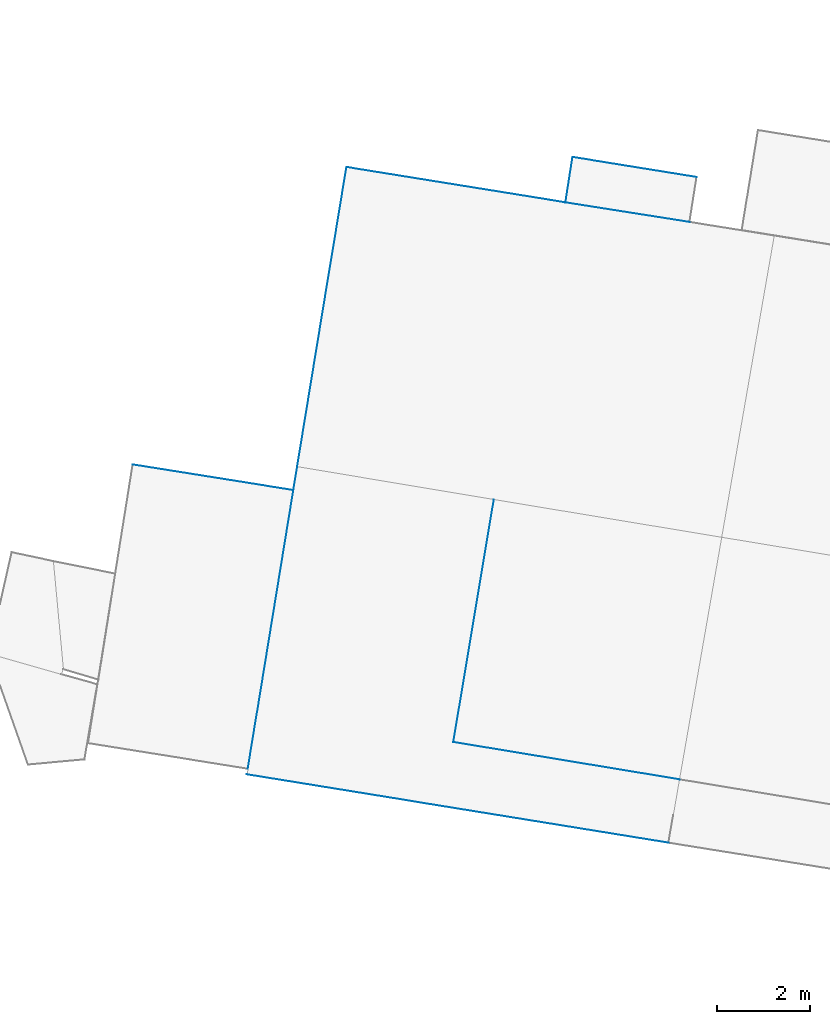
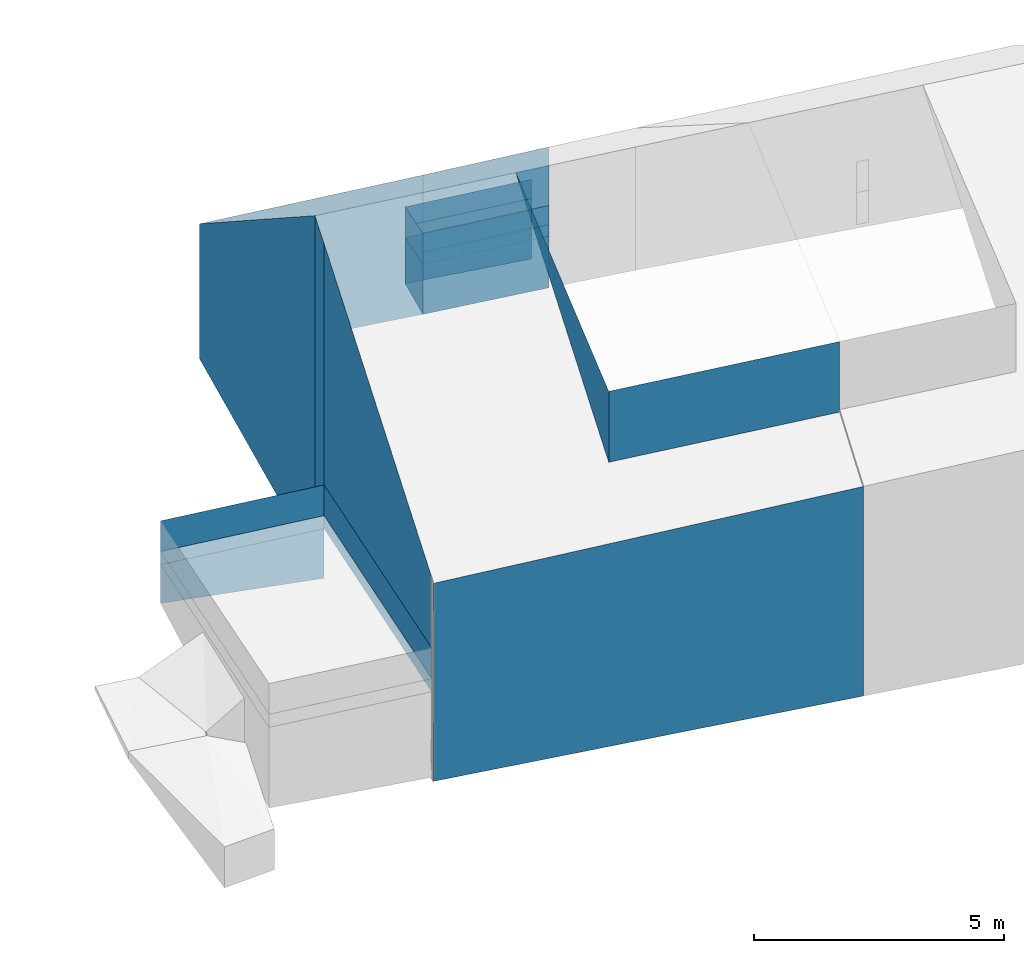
# Not in any storey, part 14 of 57: 26 walls.
"""IFC4 building model written with IfcOpenShell, lengths in metres."""

import ifcopenshell
import ifcopenshell.guid

model = None  # the IFC model being written
_history = None  # IfcOwnerHistory: only IFC2X3 demands one
_inside = {}  # id of a spatial element -> (the spatial element, [elements in it])
_under = {}  # id of a project, library or spatial element -> (it, [spatial elements below it])
_declared = {}  # id of a project -> (the project, [libraries it declares])
_typed = {}  # id of a type object -> (the type object, [elements of that type])
_made_of = {}  # id of a material, layer set ... -> (it, [elements and type objects made of it])


def new_model(schema):
    """Start an empty IFC model of exactly this schema.

    Asked for "IFC4X3", IfcOpenShell would pick the latest addendum, in which some entities
    have other attributes; the version numbers below select the first issue.
    IFC2X3 requires an IfcOwnerHistory on every rooted entity: one is made here for all.
    """
    global model, _history
    if schema == "IFC4X3":
        model = ifcopenshell.file(schema_version=(4, 3, 0, 0))
    else:
        model = ifcopenshell.file(schema=schema)
    _inside.clear()
    _under.clear()
    _declared.clear()
    _typed.clear()
    _made_of.clear()
    _history = None
    if model.schema == "IFC2X3":
        org = make("IfcOrganization", Name="unknown")
        user = make(
            "IfcPersonAndOrganization",
            ThePerson=make("IfcPerson", FamilyName="unknown"),
            TheOrganization=org,
        )
        app = make(
            "IfcApplication",
            ApplicationDeveloper=org,
            Version="unknown",
            ApplicationFullName="unknown",
            ApplicationIdentifier="unknown",
        )
        _history = make(
            "IfcOwnerHistory",
            OwningUser=user,
            OwningApplication=app,
            ChangeAction="ADDED",
            CreationDate=0,
        )
    return model


def make(cls, **values):
    """One entity of the class cls with the attributes given. An attribute that is None is left unset."""
    return model.create_entity(
        cls, **{name: value for name, value in values.items() if value is not None}
    )


def entity(cls, *values):
    """Any entity or typed value of the class cls, its attributes in the order of the schema. None: left unset."""
    e = model.create_entity(cls)
    for i, value in enumerate(values):
        if value is not None:
            e[i] = value
    return e


def rooted(cls, **values):
    """An entity with a GlobalId (a new one), such as an element, a storey or a relation."""
    return make(cls, GlobalId=ifcopenshell.guid.new(), OwnerHistory=_history, **values)


def si_unit(unit_type, name, prefix=None):
    """IfcSIUnit, for example si_unit("LENGTHUNIT", "METRE", prefix="MILLI")."""
    return make("IfcSIUnit", UnitType=unit_type, Prefix=prefix, Name=name)


def converted_unit(unit_type, name, factor, base, dimensions=None, offset=None):
    """IfcConversionBasedUnit, such as the inch: factor (a typed value) times the base unit."""
    return make(
        "IfcConversionBasedUnit"
        if offset is None
        else "IfcConversionBasedUnitWithOffset",
        ConversionOffset=offset,
        Dimensions=None
        if dimensions is None
        else entity("IfcDimensionalExponents", *dimensions),
        UnitType=unit_type,
        Name=name,
        ConversionFactor=make(
            "IfcMeasureWithUnit", ValueComponent=factor, UnitComponent=base
        ),
    )


def assignment(units):
    """IfcUnitAssignment: the units of a project."""
    return None if units is None else make("IfcUnitAssignment", Units=units)


def point(xyz):
    """IfcCartesianPoint."""
    return None if xyz is None else make("IfcCartesianPoint", Coordinates=xyz)


def direction(xyz):
    """IfcDirection."""
    return None if xyz is None else make("IfcDirection", DirectionRatios=xyz)


def frame(location, z_axis=None, x_axis=None):
    """IfcAxis2Placement3D, a coordinate frame: its origin and axes. An axis left out is left unset."""
    return make(
        "IfcAxis2Placement3D",
        Location=point(location),
        Axis=direction(z_axis),
        RefDirection=direction(x_axis),
    )


def origin():
    """The frame at (0, 0, 0) with its axes left unset."""
    return frame((0.0, 0.0, 0.0))


def place(relative_to, where):
    """IfcLocalPlacement: puts the frame where relative to a parent placement (None: the world)."""
    return make(
        "IfcLocalPlacement", PlacementRelTo=relative_to, RelativePlacement=where
    )


def context(
    kind, dimensions, precision=None, world=None, true_north=None, identifier=None
):
    """IfcGeometricRepresentationContext, for example the 3D "Model" context."""
    return make(
        "IfcGeometricRepresentationContext",
        ContextIdentifier=identifier,
        ContextType=kind,
        CoordinateSpaceDimension=dimensions,
        Precision=precision,
        WorldCoordinateSystem=world,
        TrueNorth=true_north,
    )


def subcontext(parent, identifier, kind, view, scale=None):
    """IfcGeometricRepresentationSubContext, for example "Body" below "Model"."""
    return make(
        "IfcGeometricRepresentationSubContext",
        ContextIdentifier=identifier,
        ContextType=kind,
        ParentContext=parent,
        TargetScale=scale,
        TargetView=view,
    )


def project(units=None, contexts=None):
    """IfcProject with its units and contexts."""
    return rooted(
        "IfcProject",
        Name="project",
        RepresentationContexts=contexts,
        UnitsInContext=assignment(units),
    )


def spatial(cls, under=None, at=None, **own):
    """A site, building, storey or space (cls), placed at a placement, below another one or the project."""
    s = rooted(cls, ObjectPlacement=at, **own)
    if under is not None:
        _under.setdefault(under.id(), (under, []))[1].append(s)
    return s


def faces_of(points, faces, orient=None, outer=None):
    """IfcFace entities. A face is a list of loops; a loop is a list of indices into points, from 0.

    orient and outer hold one flag for each loop. By default every Orientation is true, the
    first loop of a face is its IfcFaceOuterBound and the others are IfcFaceBound.
    """
    made = []
    for i, loops in enumerate(faces):
        bounds = []
        for j, loop in enumerate(loops):
            is_outer = j == 0 if outer is None else outer[i][j]
            bounds.append(
                make(
                    "IfcFaceOuterBound" if is_outer else "IfcFaceBound",
                    Bound=make("IfcPolyLoop", Polygon=[points[k] for k in loop]),
                    Orientation=True if orient is None else orient[i][j],
                )
            )
        made.append(make("IfcFace", Bounds=bounds))
    return made


def face_set(faces, orient=None, outer=None):
    """The faces of one IfcConnectedFaceSet. surface_model builds it on its shared points."""
    return ("IfcConnectedFaceSet", faces, orient, outer)


def surface_model(cls, points, shells):
    """IfcFaceBasedSurfaceModel or IfcShellBasedSurfaceModel (cls): surfaces that need not close."""
    shared = [point(p) for p in points]
    made = [make(c, CfsFaces=faces_of(shared, fs, o, b)) for c, fs, o, b in shells]
    if cls == "IfcFaceBasedSurfaceModel":
        return make(cls, FbsmFaces=made)
    return make(cls, SbsmBoundary=made)


def shape(context_of_items, identifier, shape_type, items):
    """IfcShapeRepresentation: the items that make up one representation, for example the "Body"."""
    return make(
        "IfcShapeRepresentation",
        ContextOfItems=context_of_items,
        RepresentationIdentifier=identifier,
        RepresentationType=shape_type,
        Items=items,
    )


def made_of(thing, what):
    """Note that an element or type object is made of a material, layer set ...; save() writes the relation."""
    if what is not None:
        _made_of.setdefault(what.id(), (what, []))[1].append(thing)
    return thing


def element(
    cls,
    number,
    at=None,
    inside=None,
    cuts=None,
    type_object=None,
    material=None,
    context=None,
    identifier="Body",
    shape_type=None,
    held_by="IfcProductDefinitionShape",
    body=None,
    shapes=None,
    **own,
):
    """One element of the class cls, such as IfcWall. Its Tag is "e" and its number.

    at: its placement. inside: the storey or other place that contains it. cuts: it is an
    opening in that element (IfcRelVoidsElement). A single representation is given by context,
    identifier, shape_type and body (its items); several are given by shapes. held_by: the class
    of the entity that holds the representations. save() writes the other relations.
    """
    e = rooted(cls, Tag="e%d" % number, ObjectPlacement=at, **own)
    if body is not None:
        shapes = [shape(context, identifier, shape_type, body)]
    if shapes is not None:
        e.Representation = make(held_by, Representations=shapes)
    if inside is not None:
        _inside.setdefault(inside.id(), (inside, []))[1].append(e)
    if cuts is not None:
        rooted(
            "IfcRelVoidsElement", RelatingBuildingElement=cuts, RelatedOpeningElement=e
        )
    if type_object is not None:
        _typed.setdefault(type_object.id(), (type_object, []))[1].append(e)
    return made_of(e, material)


def aggregate(whole, parts):
    """IfcRelAggregates: a whole, such as a stair, and the parts it consists of."""
    return rooted("IfcRelAggregates", RelatingObject=whole, RelatedObjects=parts)


def save(model, path):
    """Write the relations noted so far, then the file.

    IfcRelAggregates (storeys below a building ...), IfcRelContainedInSpatialStructure (elements
    in a storey), IfcRelDefinesByType, IfcRelAssociatesMaterial and IfcRelDeclares: one each for
    every whole, place, type object, material and project.
    """
    for whole, parts in _under.values():
        aggregate(whole, parts)
    for where, things in _inside.values():
        rooted(
            "IfcRelContainedInSpatialStructure",
            RelatedElements=things,
            RelatingStructure=where,
        )
    for kind, things in _typed.values():
        rooted("IfcRelDefinesByType", RelatedObjects=things, RelatingType=kind)
    for what, things in _made_of.values():
        rooted("IfcRelAssociatesMaterial", RelatedObjects=things, RelatingMaterial=what)
    for by, libraries in _declared.values():
        rooted("IfcRelDeclares", RelatingContext=by, RelatedDefinitions=libraries)
    model.write(path)


model = new_model("IFC4")

# Units and contexts
model_context = context("Model", 3, precision=1e-05, world=origin())
body_context = subcontext(model_context, "Body", "Model", "MODEL_VIEW")
ifc_project = project(units=[converted_unit("PLANEANGLEUNIT", "DEGREE", entity("IfcRatioMeasure", 0.0174532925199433), si_unit("PLANEANGLEUNIT", "RADIAN"), dimensions=[0, 0, 0, 0, 0, 0, 0]), si_unit("AREAUNIT", "SQUARE_METRE"), si_unit("LENGTHUNIT", "METRE")], contexts=[model_context])

# Site, building
site_placement = place(None, origin())
site = spatial("IfcSite", under=ifc_project, at=site_placement, Name="_site")
building_1_placement = place(site_placement, origin())
building_1 = spatial("IfcBuilding", under=site, at=building_1_placement, Name="_building")

# Walls
wall_1_placement = place(building_1_placement, origin())
element("IfcWall", 1, at=wall_1_placement, inside=building_1, Name="Wall", PredefinedType="NOTDEFINED", context=body_context, shape_type="SurfaceModel", body=[
    surface_model("IfcFaceBasedSurfaceModel", [(205.488, 98.535, 109.94), (202.816, 98.958, 109.94), (202.816, 98.958, 108.707), (205.488, 98.535, 108.677)], [face_set([[[0, 1, 2, 3]]])]),
])
wall_2_placement = place(building_1_placement, origin())
element("IfcWall", 2, at=wall_2_placement, inside=building_1, Name="Wall", PredefinedType="NOTDEFINED", context=body_context, shape_type="SurfaceModel", body=[
    surface_model("IfcFaceBasedSurfaceModel", [(202.969, 99.935, 109.94), (205.641, 99.503, 109.94), (205.641, 99.503, 108.739), (202.969, 99.935, 108.81)], [face_set([[[0, 1, 2, 3]]])]),
])
wall_3_placement = place(building_1_placement, origin())
element("IfcWall", 3, at=wall_3_placement, inside=building_1, Name="Wall", PredefinedType="NOTDEFINED", context=body_context, shape_type="SurfaceModel", body=[
    surface_model("IfcFaceBasedSurfaceModel", [(202.816, 98.958, 109.94), (202.969, 99.935, 109.94), (202.969, 99.935, 108.81), (202.816, 98.958, 108.707)], [face_set([[[0, 1, 2, 3]]])]),
])
wall_4_placement = place(building_1_placement, origin())
element("IfcWall", 4, at=wall_4_placement, inside=building_1, Name="Wall", PredefinedType="NOTDEFINED", context=body_context, shape_type="SurfaceModel", body=[
    surface_model("IfcFaceBasedSurfaceModel", [(200.403, 87.337, 114.72), (201.276, 92.562, 116.58), (201.276, 92.562, 116.56), (200.403, 87.337, 112.986)], [face_set([[[0, 1, 2, 3]]])]),
])
wall_5_placement = place(building_1_placement, origin())
element("IfcWall", 5, at=wall_5_placement, inside=building_1, Name="Wall", PredefinedType="NOTDEFINED", context=body_context, shape_type="SurfaceModel", body=[
    surface_model("IfcFaceBasedSurfaceModel", [(205.272, 86.532, 114.72), (200.403, 87.337, 114.72), (200.403, 87.337, 112.986), (205.272, 86.532, 112.995)], [face_set([[[0, 1, 2, 3]]])]),
])
wall_6_placement = place(building_1_placement, origin())
element("IfcWall", 6, at=wall_6_placement, inside=building_1, Name="Wall", PredefinedType="NOTDEFINED", context=body_context, shape_type="SurfaceModel", body=[
    surface_model("IfcFaceBasedSurfaceModel", [(202.969, 99.935, 110.22), (205.641, 99.503, 110.22), (205.641, 99.503, 108.739), (202.969, 99.935, 108.81)], [face_set([[[0, 1, 2, 3]]])]),
])
wall_7_placement = place(building_1_placement, origin())
element("IfcWall", 7, at=wall_7_placement, inside=building_1, Name="Wall", PredefinedType="NOTDEFINED", context=body_context, shape_type="SurfaceModel", body=[
    surface_model("IfcFaceBasedSurfaceModel", [(202.816, 98.958, 110.22), (202.969, 99.935, 110.22), (202.969, 99.935, 108.81), (202.816, 98.958, 108.707)], [face_set([[[0, 1, 2, 3]]])]),
])
wall_8_placement = place(building_1_placement, origin())
element("IfcWall", 8, at=wall_8_placement, inside=building_1, Name="Wall", PredefinedType="NOTDEFINED", context=body_context, shape_type="SurfaceModel", body=[
    surface_model("IfcFaceBasedSurfaceModel", [(205.488, 98.535, 110.22), (202.816, 98.958, 110.22), (202.816, 98.958, 108.707), (205.488, 98.535, 108.677)], [face_set([[[0, 1, 2, 3]]])]),
])
wall_9_placement = place(building_1_placement, origin())
element("IfcWall", 9, at=wall_9_placement, inside=building_1, Name="Wall", PredefinedType="NOTDEFINED", context=body_context, shape_type="SurfaceModel", body=[
    surface_model("IfcFaceBasedSurfaceModel", [(195.977, 86.76, 112.09), (196.958, 92.761, 116.24), (196.958, 92.761, 109.28), (195.977, 86.76, 109.28)], [face_set([[[0, 1, 2, 3]]])]),
])
wall_10_placement = place(building_1_placement, origin())
element("IfcWall", 10, at=wall_10_placement, inside=building_1, Name="Wall", PredefinedType="NOTDEFINED", context=body_context, shape_type="SurfaceModel", body=[
    surface_model("IfcFaceBasedSurfaceModel", [(205.035, 85.168, 112.09), (195.954, 86.641, 112.01), (195.954, 86.641, 107.172), (205.035, 85.168, 106.97)], [face_set([[[0, 1, 2, 3]]])]),
])
wall_11_placement = place(building_1_placement, origin())
element("IfcWall", 11, at=wall_11_placement, inside=building_1, Name="Wall", PredefinedType="NOTDEFINED", context=body_context, shape_type="SurfaceModel", body=[
    surface_model("IfcFaceBasedSurfaceModel", [(196.958, 92.761, 116.24), (197.04, 93.27, 116.59), (197.04, 93.27, 108.121), (196.958, 92.761, 108.069)], [face_set([[[0, 1, 2, 3]]])]),
])
wall_12_placement = place(building_1_placement, origin())
element("IfcWall", 12, at=wall_12_placement, inside=building_1, Name="Wall", PredefinedType="NOTDEFINED", context=body_context, shape_type="SurfaceModel", body=[
    surface_model("IfcFaceBasedSurfaceModel", [(202.816, 98.958, 112.11), (205.488, 98.535, 112.12), (205.488, 98.535, 109.94), (202.816, 98.958, 109.94)], [face_set([[[0, 1, 2, 3]]])]),
])
wall_13_placement = place(building_1_placement, origin())
element("IfcWall", 13, at=wall_13_placement, inside=building_1, Name="Wall", PredefinedType="NOTDEFINED", context=body_context, shape_type="SurfaceModel", body=[
    surface_model("IfcFaceBasedSurfaceModel", [(198.101, 99.719, 112.11), (202.816, 98.958, 112.11), (202.816, 98.958, 108.707), (198.101, 99.719, 108.804)], [face_set([[[0, 1, 2, 3]]])]),
])
wall_14_placement = place(building_1_placement, origin())
element("IfcWall", 14, at=wall_14_placement, inside=building_1, Name="Wall", PredefinedType="NOTDEFINED", context=body_context, shape_type="SurfaceModel", body=[
    surface_model("IfcFaceBasedSurfaceModel", [(197.04, 93.27, 116.59), (198.101, 99.719, 112.11), (198.101, 99.719, 108.804), (197.04, 93.27, 108.121)], [face_set([[[0, 1, 2, 3]]])]),
])
wall_15_placement = place(building_1_placement, origin())
element("IfcWall", 15, at=wall_15_placement, inside=building_1, Name="Wall", PredefinedType="NOTDEFINED", context=body_context, shape_type="SurfaceModel", body=[
    surface_model("IfcFaceBasedSurfaceModel", [(205.488, 98.535, 109.94), (202.816, 98.958, 109.94), (202.816, 98.958, 110.69), (205.488, 98.535, 110.69)], [face_set([[[0, 1, 2, 3]]])]),
])
wall_16_placement = place(building_1_placement, origin())
element("IfcWall", 16, at=wall_16_placement, inside=building_1, Name="Wall", PredefinedType="NOTDEFINED", context=body_context, shape_type="SurfaceModel", body=[
    surface_model("IfcFaceBasedSurfaceModel", [(202.969, 99.935, 109.94), (205.641, 99.503, 109.94), (205.641, 99.503, 110.69), (202.969, 99.935, 110.69)], [face_set([[[0, 1, 2, 3]]])]),
])
wall_17_placement = place(building_1_placement, origin())
element("IfcWall", 17, at=wall_17_placement, inside=building_1, Name="Wall", PredefinedType="NOTDEFINED", context=body_context, shape_type="SurfaceModel", body=[
    surface_model("IfcFaceBasedSurfaceModel", [(202.816, 98.958, 109.94), (202.969, 99.935, 109.94), (202.969, 99.935, 110.69), (202.816, 98.958, 110.69)], [face_set([[[0, 1, 2, 3]]])]),
])
wall_18_placement = place(building_1_placement, origin())
element("IfcWall", 18, at=wall_18_placement, inside=building_1, Name="Wall", PredefinedType="NOTDEFINED", context=body_context, shape_type="SurfaceModel", body=[
    surface_model("IfcFaceBasedSurfaceModel", [(205.488, 98.535, 109.94), (202.816, 98.958, 109.94), (202.816, 98.958, 110.69), (205.488, 98.535, 110.69)], [face_set([[[0, 1, 2, 3]]])]),
])
wall_19_placement = place(building_1_placement, origin())
element("IfcWall", 19, at=wall_19_placement, inside=building_1, Name="Wall", PredefinedType="NOTDEFINED", context=body_context, shape_type="SurfaceModel", body=[
    surface_model("IfcFaceBasedSurfaceModel", [(202.969, 99.935, 109.94), (205.641, 99.503, 109.94), (205.641, 99.503, 110.69), (202.969, 99.935, 110.69)], [face_set([[[0, 1, 2, 3]]])]),
])
wall_20_placement = place(building_1_placement, origin())
element("IfcWall", 20, at=wall_20_placement, inside=building_1, Name="Wall", PredefinedType="NOTDEFINED", context=body_context, shape_type="SurfaceModel", body=[
    surface_model("IfcFaceBasedSurfaceModel", [(202.816, 98.958, 109.94), (202.969, 99.935, 109.94), (202.969, 99.935, 110.69), (202.816, 98.958, 110.69)], [face_set([[[0, 1, 2, 3]]])]),
])

# Building
building_2_placement = place(site_placement, origin())
building_2 = spatial("IfcBuilding", under=site, at=building_2_placement, Name="_building")

# Walls
wall_21_placement = place(building_2_placement, origin())
element("IfcWall", 21, at=wall_21_placement, inside=building_2, Name="Wall", PredefinedType="NOTDEFINED", context=body_context, shape_type="SurfaceModel", body=[
    surface_model("IfcFaceBasedSurfaceModel", [(193.498, 93.313, 109.6), (196.958, 92.761, 109.6), (196.958, 92.761, 109.28), (193.498, 93.313, 109.28)], [face_set([[[0, 1, 2, 3]]])]),
])
wall_22_placement = place(building_2_placement, origin())
element("IfcWall", 22, at=wall_22_placement, inside=building_2, Name="Wall", PredefinedType="NOTDEFINED", context=body_context, shape_type="SurfaceModel", body=[
    surface_model("IfcFaceBasedSurfaceModel", [(193.498, 93.313, 109.28), (196.958, 92.761, 109.28), (196.958, 92.761, 108.069), (193.498, 93.313, 108.334)], [face_set([[[0, 1, 2, 3]]])]),
])
wall_23_placement = place(building_2_placement, origin())
element("IfcWall", 23, at=wall_23_placement, inside=building_2, Name="Wall", PredefinedType="NOTDEFINED", context=body_context, shape_type="SurfaceModel", body=[
    surface_model("IfcFaceBasedSurfaceModel", [(195.977, 86.76, 109.6), (196.958, 92.761, 109.6), (196.958, 92.761, 110.35), (195.977, 86.76, 110.35)], [face_set([[[0, 1, 2, 3]]])]),
])
wall_24_placement = place(building_2_placement, origin())
element("IfcWall", 24, at=wall_24_placement, inside=building_2, Name="Wall", PredefinedType="NOTDEFINED", context=body_context, shape_type="SurfaceModel", body=[
    surface_model("IfcFaceBasedSurfaceModel", [(196.958, 92.761, 109.6), (193.498, 93.313, 109.6), (193.498, 93.313, 110.35), (196.958, 92.761, 110.35)], [face_set([[[0, 1, 2, 3]]])]),
])
wall_25_placement = place(building_2_placement, origin())
element("IfcWall", 25, at=wall_25_placement, inside=building_2, Name="Wall", PredefinedType="NOTDEFINED", context=body_context, shape_type="SurfaceModel", body=[
    surface_model("IfcFaceBasedSurfaceModel", [(195.977, 86.76, 109.6), (196.958, 92.761, 109.6), (196.958, 92.761, 110.35), (195.977, 86.76, 110.35)], [face_set([[[0, 1, 2, 3]]])]),
])
wall_26_placement = place(building_2_placement, origin())
element("IfcWall", 26, at=wall_26_placement, inside=building_2, Name="Wall", PredefinedType="NOTDEFINED", context=body_context, shape_type="SurfaceModel", body=[
    surface_model("IfcFaceBasedSurfaceModel", [(196.958, 92.761, 109.6), (193.498, 93.313, 109.6), (193.498, 93.313, 110.35), (196.958, 92.761, 110.35)], [face_set([[[0, 1, 2, 3]]])]),
])

save(model, "model.ifc")
